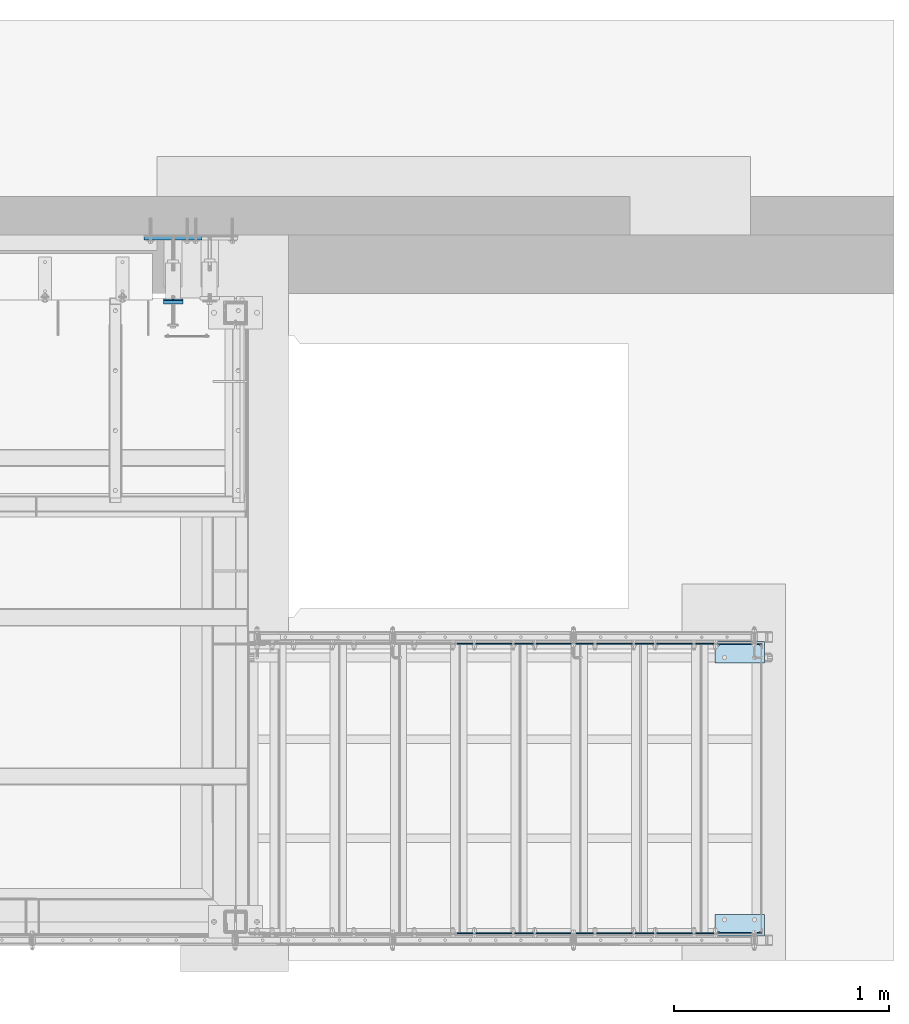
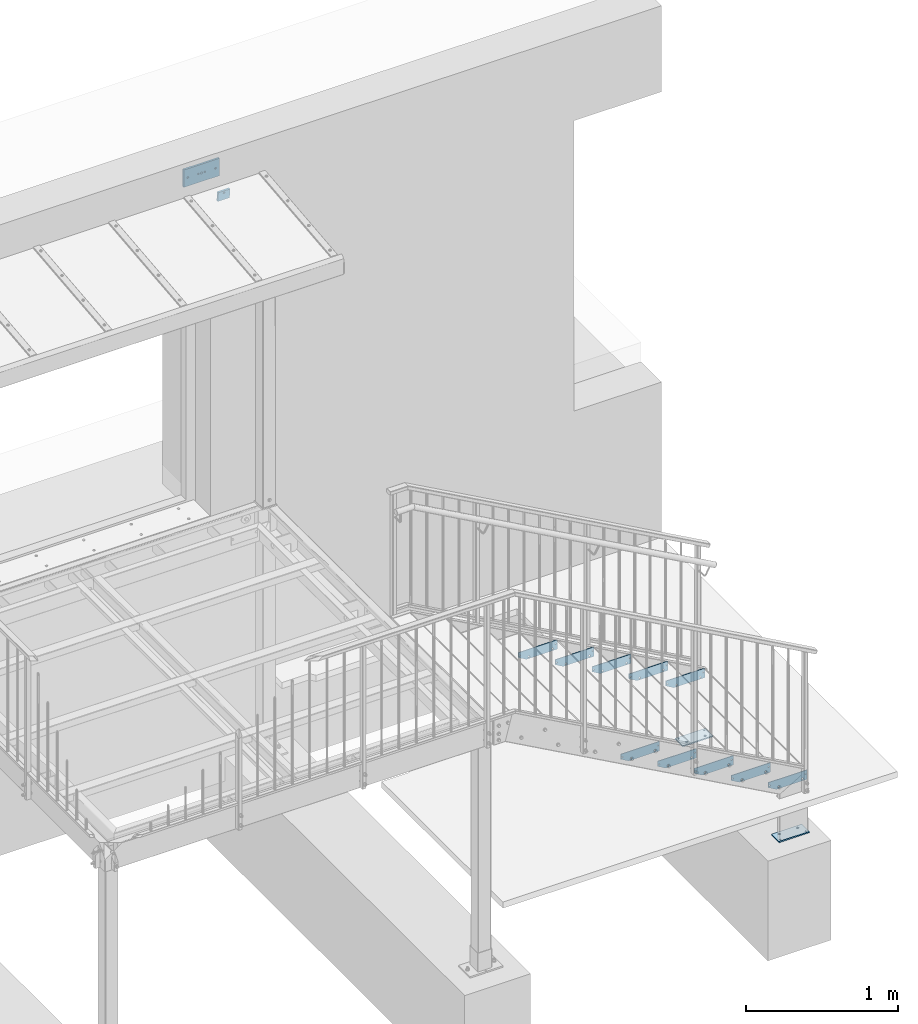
# One storey, part 25 of 116: 14 plates, 64 openings.
"""IFC2X3 building model written with IfcOpenShell, lengths in millimetres."""

from ifc_helpers import new_model, entity, si_unit, converted_unit, frame, frame_2d, origin, origin_with_axes, origin_2d_with_axis, place, context, project, spatial, polyline, circle, outline, extrude, material, layer, layer_set, element, save


model = new_model("IFC2X3")

# Units and contexts
model_context = context("Model", 3, precision=1e-09, world=origin_with_axes())
ifc_project = project(units=[si_unit("LENGTHUNIT", "METRE", prefix="MILLI"), si_unit("AREAUNIT", "SQUARE_METRE"), si_unit("VOLUMEUNIT", "CUBIC_METRE"), converted_unit("PLANEANGLEUNIT", "DEGREE", entity("IfcPlaneAngleMeasure", 0.01745329), si_unit("PLANEANGLEUNIT", "RADIAN"), dimensions=[0, 0, 0, 0, 0, 0, 0])], contexts=[model_context])

# Site, building, storey
site_placement = place(None, origin_with_axes())
site = spatial("IfcSite", under=ifc_project, at=site_placement, Name="Site", CompositionType="ELEMENT")
building_placement = place(site_placement, origin_with_axes())
building = spatial("IfcBuilding", under=site, at=building_placement, Name="Struktur 1", CompositionType="ELEMENT")
storey_placement = place(building_placement, origin_with_axes())
storey = spatial("IfcBuildingStorey", under=building, at=storey_placement, Name="Default Storey", CompositionType="ELEMENT", Elevation=0.0)

# Plate, openings
ifc_material_1 = material(Name="S235JR")
ifc_layer_1 = layer(ifc_material_1, 5.0)
ifc_layer_set_1 = layer_set([ifc_layer_1], Name="S235JR")
plate_1_placement = place(None, frame((60032.049134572, 10421.358883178, -1093.0), z_axis=(0.0, 1.0, 0.0), x_axis=(1.0, 0.0, 0.0)))
plate_1 = element("IfcPlate", 1, at=plate_1_placement, inside=storey, material=ifc_layer_set_1, Name="-", ObjectType="-", context=model_context, shape_type="SweptSolid", body=[
    extrude(outline(polyline([(5.0, 0.0), (300.0, 0.0), (300.0, 75.0), (5.0, 75.0), (5.0, 0.0)])), origin_with_axes(), (0.0, 0.0, 1.0), 5.0),
])
opening_1_placement = place(plate_1_placement, frame((0.0, 0.0, -0.01), z_axis=(0.0, 0.0, 1.0), x_axis=(1.0, 0.0, 0.0)))
element("IfcOpeningElement", 2, at=opening_1_placement, cuts=plate_1, ObjectType="Opening", context=model_context, shape_type="SweptSolid", body=[
    extrude(outline(polyline([(5.0, 75.0), (5.0, 40.0), (65.0, 75.0), (5.0, 75.0)])), origin(), (0.0, 0.0, 1.0), 5.02),
])
opening_2_placement = place(plate_1_placement, frame((11.0, 29.0, 5.5), z_axis=(0.0, 0.0, -1.0), x_axis=(0.0, 1.0, 0.0)))
element("IfcOpeningElement", 3, at=opening_2_placement, cuts=plate_1, ObjectType="Opening", context=model_context, shape_type="SweptSolid", body=[
    extrude(circle(Radius=5.001, at=frame_2d((-1.0, 6.0), x_axis=(1.0, 0.0))), origin(), (0.0, 0.0, 1.0), 6.0),
])
opening_3_placement = place(plate_1_placement, frame((299.0, 29.0, 5.5), z_axis=(0.0, 0.0, -1.0), x_axis=(0.0, -1.0, 0.0)))
element("IfcOpeningElement", 4, at=opening_3_placement, cuts=plate_1, ObjectType="Opening", context=model_context, shape_type="SweptSolid", body=[
    extrude(circle(Radius=5.001, at=frame_2d((1.0, 12.0), x_axis=(1.0, 0.0))), origin(), (0.0, 0.0, 1.0), 6.0),
])
opening_4_placement = place(plate_1_placement, frame((77.999, 60.0, -0.5), z_axis=(0.0, 0.0, -1.0), x_axis=(-1.0, 0.0, 0.0)))
element("IfcOpeningElement", 5, at=opening_4_placement, cuts=plate_1, ObjectType="Opening", context=model_context, shape_type="SweptSolid", body=[
    extrude(circle(Radius=7.001, at=frame_2d((-7.001, 0.0), x_axis=(1.0, 0.0))), origin(), (0.0, 0.0, -1.0), 6.0),
])
opening_5_placement = place(plate_1_placement, frame((257.999, 60.0, -0.5), z_axis=(0.0, 0.0, -1.0), x_axis=(-1.0, 0.0, 0.0)))
element("IfcOpeningElement", 6, at=opening_5_placement, cuts=plate_1, ObjectType="Opening", context=model_context, shape_type="SweptSolid", body=[
    extrude(circle(Radius=7.001, at=frame_2d((-7.001, 0.0), x_axis=(1.0, 0.0))), origin(), (0.0, 0.0, -1.0), 6.0),
])

# Plate, opening
ifc_material_2 = material(Name="S355JR")
ifc_layer_2 = layer(ifc_material_2, 15.0)
ifc_layer_set_2 = layer_set([ifc_layer_2], Name="S355JR")
plate_2_placement = place(None, frame((57877.049134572, 12022.096531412, 2545.0), z_axis=(0.0, -0.994521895, -0.104528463), x_axis=(1.0, 0.0, 0.0)))
plate_2 = element("IfcPlate", 7, at=plate_2_placement, inside=storey, material=ifc_layer_set_2, Name="-", ObjectType="-", context=model_context, shape_type="SweptSolid", body=[
    extrude(outline(polyline([(-45.0, -38.0), (45.0, -38.0), (45.0, 38.0), (-45.0, 38.0), (-45.0, -38.0)])), origin_with_axes(), (0.0, 0.0, 1.0), 15.0),
])
opening_6_placement = place(plate_2_placement, frame((0.0, -45.0, -0.5), z_axis=(0.0, 0.0, 1.0), x_axis=(1.0, 0.0, 0.0)))
element("IfcOpeningElement", 8, at=opening_6_placement, cuts=plate_2, ObjectType="Opening", context=model_context, shape_type="SweptSolid", body=[
    extrude(circle(Radius=7.001, at=frame_2d((0.0, 67.0), x_axis=(1.0, 0.0))), origin(), (0.0, 0.0, 1.0), 16.0),
])

# Plate, openings
plate_3_placement = place(None, frame((57877.049134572, 12301.357883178, 2545.0), z_axis=(0.0, -1.0, 0.0), x_axis=(1.0, 0.0, 0.0)))
plate_3 = element("IfcPlate", 9, at=plate_3_placement, inside=storey, material=ifc_layer_set_2, Name="-", ObjectType="-", context=model_context, shape_type="SweptSolid", body=[
    extrude(outline(polyline([(-135.0, -70.0), (135.0, -70.0), (135.0, 70.0), (-135.0, 70.0), (-135.0, -70.0)])), origin_with_axes(), (0.0, 0.0, -1.0), 15.0),
])
opening_7_placement = place(plate_3_placement, frame((18.999, 0.0, 0.5), z_axis=(0.0, 0.0, 1.0), x_axis=(1.0, 0.0, 0.0)))
element("IfcOpeningElement", 10, at=opening_7_placement, cuts=plate_3, ObjectType="Opening", context=model_context, shape_type="SweptSolid", body=[
    extrude(circle(Radius=6.001, at=frame_2d((6.001, 0.0), x_axis=(1.0, 0.0))), origin(), (0.0, 0.0, -1.0), 16.0),
])
opening_8_placement = place(plate_3_placement, frame((-31.001, 0.0, 0.5), z_axis=(0.0, 0.0, 1.0), x_axis=(1.0, 0.0, 0.0)))
element("IfcOpeningElement", 11, at=opening_8_placement, cuts=plate_3, ObjectType="Opening", context=model_context, shape_type="SweptSolid", body=[
    extrude(circle(Radius=6.001, at=frame_2d((6.001, 0.0), x_axis=(1.0, 0.0))), origin(), (0.0, 0.0, -1.0), 16.0),
])
opening_9_placement = place(plate_3_placement, frame((-8.501, 0.0, 0.5), z_axis=(0.0, 0.0, 1.0), x_axis=(1.0, 0.0, 0.0)))
element("IfcOpeningElement", 12, at=opening_9_placement, cuts=plate_3, ObjectType="Opening", context=model_context, shape_type="SweptSolid", body=[
    extrude(circle(Radius=8.501, at=frame_2d((8.501, 0.0), x_axis=(1.0, 0.0))), origin(), (0.0, 0.0, -1.0), 16.0),
])
opening_10_placement = place(plate_3_placement, frame((0.0, 0.0, -15.5), z_axis=(0.0, 0.0, 1.0), x_axis=(1.0, 0.0, 0.0)))
element("IfcOpeningElement", 13, at=opening_10_placement, cuts=plate_3, ObjectType="Opening", context=model_context, shape_type="SweptSolid", body=[
    extrude(circle(Radius=7.501, at=frame_2d((105.0, 0.0), x_axis=(1.0, 0.0))), origin(), (0.0, 0.0, 1.0), 16.0),
])
opening_11_placement = place(plate_3_placement, frame((0.0, 0.0, -15.5), z_axis=(0.0, 0.0, 1.0), x_axis=(1.0, 0.0, 0.0)))
element("IfcOpeningElement", 14, at=opening_11_placement, cuts=plate_3, ObjectType="Opening", context=model_context, shape_type="SweptSolid", body=[
    extrude(circle(Radius=7.501, at=frame_2d((-105.0, 0.0), x_axis=(1.0, 0.0))), origin(), (0.0, 0.0, 1.0), 16.0),
])

plate_4_placement = place(None, frame((60032.049134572, 9081.358883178, -1093.0), z_axis=(0.0, 1.0, 0.0), x_axis=(1.0, 0.0, 0.0)))
plate_4 = element("IfcPlate", 15, at=plate_4_placement, inside=storey, material=ifc_layer_set_1, Name="-", ObjectType="-", context=model_context, shape_type="SweptSolid", body=[
    extrude(outline(polyline([(5.0, 0.0), (300.0, 0.0), (300.0, 75.0), (5.0, 75.0), (5.0, 0.0)])), origin_with_axes(), (0.0, 0.0, -1.0), 5.0),
])
opening_12_placement = place(plate_4_placement, frame((5.0, 75.0, 0.01), z_axis=(0.0, 0.0, 1.0), x_axis=(0.0, -1.0, 0.0)))
element("IfcOpeningElement", 16, at=opening_12_placement, cuts=plate_4, ObjectType="Opening", context=model_context, shape_type="SweptSolid", body=[
    extrude(outline(polyline([(0.0, 0.0), (35.0, 0.0), (0.0, 60.0), (0.0, 0.0)])), origin(), (0.0, 0.0, -1.0), 5.02),
])
opening_13_placement = place(plate_4_placement, frame((17.0, 22.999, -5.5), z_axis=(0.0, 0.0, -1.0), x_axis=(-1.0, 0.0, 0.0)))
element("IfcOpeningElement", 17, at=opening_13_placement, cuts=plate_4, ObjectType="Opening", context=model_context, shape_type="SweptSolid", body=[
    extrude(circle(Radius=5.001, at=frame_2d((0.0, 5.001), x_axis=(1.0, 0.0))), origin(), (0.0, 0.0, -1.0), 6.0),
])
opening_14_placement = place(plate_4_placement, frame((287.0, 33.001, -5.5), z_axis=(0.0, 0.0, -1.0), x_axis=(-1.0, 0.0, 0.0)))
element("IfcOpeningElement", 18, at=opening_14_placement, cuts=plate_4, ObjectType="Opening", context=model_context, shape_type="SweptSolid", body=[
    extrude(circle(Radius=5.001, at=frame_2d((0.0, -5.001), x_axis=(1.0, 0.0))), origin(), (0.0, 0.0, -1.0), 6.0),
])
opening_15_placement = place(plate_4_placement, frame((85.0, 60.0, 0.5), z_axis=(0.0, 0.0, -1.0), x_axis=(1.0, 0.0, 0.0)))
element("IfcOpeningElement", 19, at=opening_15_placement, cuts=plate_4, ObjectType="Opening", context=model_context, shape_type="SweptSolid", body=[
    extrude(circle(Radius=7.001, at=origin_2d_with_axis()), origin(), (0.0, 0.0, 1.0), 6.0),
])
opening_16_placement = place(plate_4_placement, frame((265.0, 60.0, 0.5), z_axis=(0.0, 0.0, -1.0), x_axis=(1.0, 0.0, 0.0)))
element("IfcOpeningElement", 20, at=opening_16_placement, cuts=plate_4, ObjectType="Opening", context=model_context, shape_type="SweptSolid", body=[
    extrude(circle(Radius=7.001, at=origin_2d_with_axis()), origin(), (0.0, 0.0, 1.0), 6.0),
])

ifc_layer_3 = layer(ifc_material_1, 10.0)
ifc_layer_set_3 = layer_set([ifc_layer_3], Name="S235JR")
plate_5_placement = place(None, frame((60508.549134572, 9117.358883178, -1752.0), z_axis=(0.0, 0.0, 1.0), x_axis=(1.0, 0.0, 0.0)))
plate_5 = element("IfcPlate", 21, at=plate_5_placement, inside=storey, material=ifc_layer_set_3, Name="-", ObjectType="-", context=model_context, shape_type="SweptSolid", body=[
    extrude(outline(polyline([(-115.0, -50.0), (115.0, -50.0), (115.0, 50.0), (-115.0, 50.0), (-115.0, -50.0)])), origin_with_axes(), (0.0, 0.0, 1.0), 10.0),
])
opening_17_placement = place(plate_5_placement, frame((104.5, -36.0, -0.5), z_axis=(0.0, 0.0, 1.0), x_axis=(1.0, 0.0, 0.0)))
element("IfcOpeningElement", 22, at=opening_17_placement, cuts=plate_5, ObjectType="Opening", context=model_context, shape_type="SweptSolid", body=[
    extrude(circle(Radius=5.001, at=frame_2d((-7.0, 2.0), x_axis=(1.0, 0.0))), origin(), (0.0, 0.0, 1.0), 11.0),
])
opening_18_placement = place(plate_5_placement, frame((-104.5, -36.0, -0.5), z_axis=(0.0, 0.0, 1.0), x_axis=(1.0, 0.0, 0.0)))
element("IfcOpeningElement", 23, at=opening_18_placement, cuts=plate_5, ObjectType="Opening", context=model_context, shape_type="SweptSolid", body=[
    extrude(circle(Radius=5.001, at=frame_2d((7.0, 2.0), x_axis=(1.0, 0.0))), origin(), (0.0, 0.0, 1.0), 11.0),
])
opening_19_placement = place(plate_5_placement, frame((0.0, 25.0, -0.5), z_axis=(0.0, 0.0, 1.0), x_axis=(1.0, 0.0, 0.0)))
element("IfcOpeningElement", 24, at=opening_19_placement, cuts=plate_5, ObjectType="Opening", context=model_context, shape_type="SweptSolid", body=[
    extrude(circle(Radius=8.001, at=frame_2d((70.0, 0.0), x_axis=(1.0, 0.0))), origin(), (0.0, 0.0, 1.0), 11.0),
])
opening_20_placement = place(plate_5_placement, frame((0.0, 25.0, -0.5), z_axis=(0.0, 0.0, 1.0), x_axis=(1.0, 0.0, 0.0)))
element("IfcOpeningElement", 25, at=opening_20_placement, cuts=plate_5, ObjectType="Opening", context=model_context, shape_type="SweptSolid", body=[
    extrude(circle(Radius=8.001, at=frame_2d((-70.0, 0.0), x_axis=(1.0, 0.0))), origin(), (0.0, 0.0, 1.0), 11.0),
])

plate_6_placement = place(None, frame((60508.549134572, 10385.358883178, -1752.0), z_axis=(0.0, 0.0, -1.0), x_axis=(1.0, 0.0, 0.0)))
plate_6 = element("IfcPlate", 26, at=plate_6_placement, inside=storey, material=ifc_layer_set_3, Name="-", ObjectType="-", context=model_context, shape_type="SweptSolid", body=[
    extrude(outline(polyline([(-115.0, -50.0), (115.0, -50.0), (115.0, 50.0), (-115.0, 50.0), (-115.0, -50.0)])), origin_with_axes(), (0.0, 0.0, -1.0), 10.0),
])
opening_21_placement = place(plate_6_placement, frame((92.499, -34.0, 0.5), z_axis=(0.0, 0.0, 1.0), x_axis=(1.0, 0.0, 0.0)))
element("IfcOpeningElement", 27, at=opening_21_placement, cuts=plate_6, ObjectType="Opening", context=model_context, shape_type="SweptSolid", body=[
    extrude(circle(Radius=5.001, at=frame_2d((5.001, 0.0), x_axis=(1.0, 0.0))), origin(), (0.0, 0.0, -1.0), 11.0),
])
opening_22_placement = place(plate_6_placement, frame((-102.501, -34.0, 0.5), z_axis=(0.0, 0.0, 1.0), x_axis=(1.0, 0.0, 0.0)))
element("IfcOpeningElement", 28, at=opening_22_placement, cuts=plate_6, ObjectType="Opening", context=model_context, shape_type="SweptSolid", body=[
    extrude(circle(Radius=5.001, at=frame_2d((5.001, 0.0), x_axis=(1.0, 0.0))), origin(), (0.0, 0.0, -1.0), 11.0),
])
opening_23_placement = place(plate_6_placement, frame((61.999, 25.0, 0.5), z_axis=(0.0, 0.0, 1.0), x_axis=(1.0, 0.0, 0.0)))
element("IfcOpeningElement", 29, at=opening_23_placement, cuts=plate_6, ObjectType="Opening", context=model_context, shape_type="SweptSolid", body=[
    extrude(circle(Radius=8.001, at=frame_2d((8.001, 0.0), x_axis=(1.0, 0.0))), origin(), (0.0, 0.0, -1.0), 11.0),
])
opening_24_placement = place(plate_6_placement, frame((-78.001, 25.0, 0.5), z_axis=(0.0, 0.0, 1.0), x_axis=(1.0, 0.0, 0.0)))
element("IfcOpeningElement", 30, at=opening_24_placement, cuts=plate_6, ObjectType="Opening", context=model_context, shape_type="SweptSolid", body=[
    extrude(circle(Radius=8.001, at=frame_2d((8.001, 0.0), x_axis=(1.0, 0.0))), origin(), (0.0, 0.0, -1.0), 11.0),
])

plate_7_placement = place(None, frame((60312.049134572, 10421.358883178, -1248.0), z_axis=(0.0, 1.0, 0.0), x_axis=(1.0, 0.0, 0.0)))
plate_7 = element("IfcPlate", 31, at=plate_7_placement, inside=storey, material=ifc_layer_set_1, Name="-", ObjectType="-", context=model_context, shape_type="SweptSolid", body=[
    extrude(outline(polyline([(5.0, 0.0), (300.0, 0.0), (300.0, 75.0), (5.0, 75.0), (5.0, 0.0)])), origin_with_axes(), (0.0, 0.0, 1.0), 5.0),
])
opening_25_placement = place(plate_7_placement, frame((0.0, 0.0, -0.01), z_axis=(0.0, 0.0, 1.0), x_axis=(1.0, 0.0, 0.0)))
element("IfcOpeningElement", 32, at=opening_25_placement, cuts=plate_7, ObjectType="Opening", context=model_context, shape_type="SweptSolid", body=[
    extrude(outline(polyline([(5.0, 75.0), (5.0, 40.0), (65.0, 75.0), (5.0, 75.0)])), origin(), (0.0, 0.0, 1.0), 5.02),
])
opening_26_placement = place(plate_7_placement, frame((11.0, 29.0, 5.5), z_axis=(0.0, 0.0, -1.0), x_axis=(0.0, 1.0, 0.0)))
element("IfcOpeningElement", 33, at=opening_26_placement, cuts=plate_7, ObjectType="Opening", context=model_context, shape_type="SweptSolid", body=[
    extrude(circle(Radius=5.001, at=frame_2d((-1.0, 6.0), x_axis=(1.0, 0.0))), origin(), (0.0, 0.0, 1.0), 6.0),
])
opening_27_placement = place(plate_7_placement, frame((299.0, 29.0, 5.5), z_axis=(0.0, 0.0, -1.0), x_axis=(0.0, -1.0, 0.0)))
element("IfcOpeningElement", 34, at=opening_27_placement, cuts=plate_7, ObjectType="Opening", context=model_context, shape_type="SweptSolid", body=[
    extrude(circle(Radius=5.001, at=frame_2d((1.0, 12.0), x_axis=(1.0, 0.0))), origin(), (0.0, 0.0, 1.0), 6.0),
])
opening_28_placement = place(plate_7_placement, frame((77.999, 60.0, -0.5), z_axis=(0.0, 0.0, -1.0), x_axis=(-1.0, 0.0, 0.0)))
element("IfcOpeningElement", 35, at=opening_28_placement, cuts=plate_7, ObjectType="Opening", context=model_context, shape_type="SweptSolid", body=[
    extrude(circle(Radius=7.001, at=frame_2d((-7.001, 0.0), x_axis=(1.0, 0.0))), origin(), (0.0, 0.0, -1.0), 6.0),
])
opening_29_placement = place(plate_7_placement, frame((265.0, 60.0, 5.5), z_axis=(0.0, 0.0, -1.0), x_axis=(1.0, 0.0, 0.0)))
element("IfcOpeningElement", 36, at=opening_29_placement, cuts=plate_7, ObjectType="Opening", context=model_context, shape_type="SweptSolid", body=[
    extrude(circle(Radius=7.001, at=origin_2d_with_axis()), origin(), (0.0, 0.0, 1.0), 6.0),
])

plate_8_placement = place(None, frame((60312.049134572, 9081.358883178, -1248.0), z_axis=(0.0, 1.0, 0.0), x_axis=(1.0, 0.0, 0.0)))
plate_8 = element("IfcPlate", 37, at=plate_8_placement, inside=storey, material=ifc_layer_set_1, Name="-", ObjectType="-", context=model_context, shape_type="SweptSolid", body=[
    extrude(outline(polyline([(5.0, 0.0), (300.0, 0.0), (300.0, 75.0), (5.0, 75.0), (5.0, 0.0)])), origin_with_axes(), (0.0, 0.0, -1.0), 5.0),
])
opening_30_placement = place(plate_8_placement, frame((5.0, 75.0, 0.01), z_axis=(0.0, 0.0, 1.0), x_axis=(0.0, -1.0, 0.0)))
element("IfcOpeningElement", 38, at=opening_30_placement, cuts=plate_8, ObjectType="Opening", context=model_context, shape_type="SweptSolid", body=[
    extrude(outline(polyline([(0.0, 0.0), (35.0, 0.0), (0.0, 60.0), (0.0, 0.0)])), origin(), (0.0, 0.0, -1.0), 5.02),
])
opening_31_placement = place(plate_8_placement, frame((17.0, 22.999, -5.5), z_axis=(0.0, 0.0, -1.0), x_axis=(-1.0, 0.0, 0.0)))
element("IfcOpeningElement", 39, at=opening_31_placement, cuts=plate_8, ObjectType="Opening", context=model_context, shape_type="SweptSolid", body=[
    extrude(circle(Radius=5.001, at=frame_2d((0.0, 5.001), x_axis=(1.0, 0.0))), origin(), (0.0, 0.0, -1.0), 6.0),
])
opening_32_placement = place(plate_8_placement, frame((287.0, 33.001, -5.5), z_axis=(0.0, 0.0, -1.0), x_axis=(-1.0, 0.0, 0.0)))
element("IfcOpeningElement", 40, at=opening_32_placement, cuts=plate_8, ObjectType="Opening", context=model_context, shape_type="SweptSolid", body=[
    extrude(circle(Radius=5.001, at=frame_2d((0.0, -5.001), x_axis=(1.0, 0.0))), origin(), (0.0, 0.0, -1.0), 6.0),
])
opening_33_placement = place(plate_8_placement, frame((85.0, 60.0, 0.5), z_axis=(0.0, 0.0, -1.0), x_axis=(1.0, 0.0, 0.0)))
element("IfcOpeningElement", 41, at=opening_33_placement, cuts=plate_8, ObjectType="Opening", context=model_context, shape_type="SweptSolid", body=[
    extrude(circle(Radius=7.001, at=origin_2d_with_axis()), origin(), (0.0, 0.0, 1.0), 6.0),
])
opening_34_placement = place(plate_8_placement, frame((257.999, 60.0, -5.5), z_axis=(0.0, 0.0, -1.0), x_axis=(-1.0, 0.0, 0.0)))
element("IfcOpeningElement", 42, at=opening_34_placement, cuts=plate_8, ObjectType="Opening", context=model_context, shape_type="SweptSolid", body=[
    extrude(circle(Radius=7.001, at=frame_2d((-7.001, 0.0), x_axis=(1.0, 0.0))), origin(), (0.0, 0.0, -1.0), 6.0),
])

plate_9_placement = place(None, frame((59752.049134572, 10421.358883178, -938.0), z_axis=(0.0, 1.0, 0.0), x_axis=(1.0, 0.0, 0.0)))
plate_9 = element("IfcPlate", 43, at=plate_9_placement, inside=storey, material=ifc_layer_set_1, Name="-", ObjectType="-", context=model_context, shape_type="SweptSolid", body=[
    extrude(outline(polyline([(5.0, 0.0), (300.0, 0.0), (300.0, 75.0), (5.0, 75.0), (5.0, 0.0)])), origin_with_axes(), (0.0, 0.0, 1.0), 5.0),
])
opening_35_placement = place(plate_9_placement, frame((0.0, 0.0, -0.01), z_axis=(0.0, 0.0, 1.0), x_axis=(1.0, 0.0, 0.0)))
element("IfcOpeningElement", 44, at=opening_35_placement, cuts=plate_9, ObjectType="Opening", context=model_context, shape_type="SweptSolid", body=[
    extrude(outline(polyline([(5.0, 75.0), (5.0, 40.0), (65.0, 75.0), (5.0, 75.0)])), origin(), (0.0, 0.0, 1.0), 5.02),
])
opening_36_placement = place(plate_9_placement, frame((11.0, 29.0, 5.5), z_axis=(0.0, 0.0, -1.0), x_axis=(0.0, 1.0, 0.0)))
element("IfcOpeningElement", 45, at=opening_36_placement, cuts=plate_9, ObjectType="Opening", context=model_context, shape_type="SweptSolid", body=[
    extrude(circle(Radius=5.001, at=frame_2d((-1.0, 6.0), x_axis=(1.0, 0.0))), origin(), (0.0, 0.0, 1.0), 6.0),
])
opening_37_placement = place(plate_9_placement, frame((299.0, 29.0, 5.5), z_axis=(0.0, 0.0, -1.0), x_axis=(0.0, -1.0, 0.0)))
element("IfcOpeningElement", 46, at=opening_37_placement, cuts=plate_9, ObjectType="Opening", context=model_context, shape_type="SweptSolid", body=[
    extrude(circle(Radius=5.001, at=frame_2d((1.0, 12.0), x_axis=(1.0, 0.0))), origin(), (0.0, 0.0, 1.0), 6.0),
])
opening_38_placement = place(plate_9_placement, frame((77.999, 60.0, -0.5), z_axis=(0.0, 0.0, -1.0), x_axis=(-1.0, 0.0, 0.0)))
element("IfcOpeningElement", 47, at=opening_38_placement, cuts=plate_9, ObjectType="Opening", context=model_context, shape_type="SweptSolid", body=[
    extrude(circle(Radius=7.001, at=frame_2d((-7.001, 0.0), x_axis=(1.0, 0.0))), origin(), (0.0, 0.0, -1.0), 6.0),
])
opening_39_placement = place(plate_9_placement, frame((257.999, 60.0, -0.5), z_axis=(0.0, 0.0, -1.0), x_axis=(-1.0, 0.0, 0.0)))
element("IfcOpeningElement", 48, at=opening_39_placement, cuts=plate_9, ObjectType="Opening", context=model_context, shape_type="SweptSolid", body=[
    extrude(circle(Radius=7.001, at=frame_2d((-7.001, 0.0), x_axis=(1.0, 0.0))), origin(), (0.0, 0.0, -1.0), 6.0),
])

plate_10_placement = place(None, frame((59752.049134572, 9081.358883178, -938.0), z_axis=(0.0, 1.0, 0.0), x_axis=(1.0, 0.0, 0.0)))
plate_10 = element("IfcPlate", 49, at=plate_10_placement, inside=storey, material=ifc_layer_set_1, Name="-", ObjectType="-", context=model_context, shape_type="SweptSolid", body=[
    extrude(outline(polyline([(5.0, 0.0), (300.0, 0.0), (300.0, 75.0), (5.0, 75.0), (5.0, 0.0)])), origin_with_axes(), (0.0, 0.0, -1.0), 5.0),
])
opening_40_placement = place(plate_10_placement, frame((5.0, 75.0, 0.01), z_axis=(0.0, 0.0, 1.0), x_axis=(0.0, -1.0, 0.0)))
element("IfcOpeningElement", 50, at=opening_40_placement, cuts=plate_10, ObjectType="Opening", context=model_context, shape_type="SweptSolid", body=[
    extrude(outline(polyline([(0.0, 0.0), (35.0, 0.0), (0.0, 60.0), (0.0, 0.0)])), origin(), (0.0, 0.0, -1.0), 5.02),
])
opening_41_placement = place(plate_10_placement, frame((17.0, 22.999, -5.5), z_axis=(0.0, 0.0, -1.0), x_axis=(-1.0, 0.0, 0.0)))
element("IfcOpeningElement", 51, at=opening_41_placement, cuts=plate_10, ObjectType="Opening", context=model_context, shape_type="SweptSolid", body=[
    extrude(circle(Radius=5.001, at=frame_2d((0.0, 5.001), x_axis=(1.0, 0.0))), origin(), (0.0, 0.0, -1.0), 6.0),
])
opening_42_placement = place(plate_10_placement, frame((287.0, 33.001, -5.5), z_axis=(0.0, 0.0, -1.0), x_axis=(-1.0, 0.0, 0.0)))
element("IfcOpeningElement", 52, at=opening_42_placement, cuts=plate_10, ObjectType="Opening", context=model_context, shape_type="SweptSolid", body=[
    extrude(circle(Radius=5.001, at=frame_2d((0.0, -5.001), x_axis=(1.0, 0.0))), origin(), (0.0, 0.0, -1.0), 6.0),
])
opening_43_placement = place(plate_10_placement, frame((265.0, 60.0, 0.5), z_axis=(0.0, 0.0, -1.0), x_axis=(1.0, 0.0, 0.0)))
element("IfcOpeningElement", 53, at=opening_43_placement, cuts=plate_10, ObjectType="Opening", context=model_context, shape_type="SweptSolid", body=[
    extrude(circle(Radius=7.001, at=origin_2d_with_axis()), origin(), (0.0, 0.0, 1.0), 6.0),
])
opening_44_placement = place(plate_10_placement, frame((85.0, 60.0, 0.5), z_axis=(0.0, 0.0, -1.0), x_axis=(1.0, 0.0, 0.0)))
element("IfcOpeningElement", 54, at=opening_44_placement, cuts=plate_10, ObjectType="Opening", context=model_context, shape_type="SweptSolid", body=[
    extrude(circle(Radius=7.001, at=origin_2d_with_axis()), origin(), (0.0, 0.0, 1.0), 6.0),
])

plate_11_placement = place(None, frame((59472.049134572, 10421.358883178, -783.0), z_axis=(0.0, 1.0, 0.0), x_axis=(1.0, 0.0, 0.0)))
plate_11 = element("IfcPlate", 55, at=plate_11_placement, inside=storey, material=ifc_layer_set_1, Name="-", ObjectType="-", context=model_context, shape_type="SweptSolid", body=[
    extrude(outline(polyline([(5.0, 0.0), (300.0, 0.0), (300.0, 75.0), (5.0, 75.0), (5.0, 0.0)])), origin_with_axes(), (0.0, 0.0, 1.0), 5.0),
])
opening_45_placement = place(plate_11_placement, frame((0.0, 0.0, -0.01), z_axis=(0.0, 0.0, 1.0), x_axis=(1.0, 0.0, 0.0)))
element("IfcOpeningElement", 56, at=opening_45_placement, cuts=plate_11, ObjectType="Opening", context=model_context, shape_type="SweptSolid", body=[
    extrude(outline(polyline([(5.0, 75.0), (5.0, 40.0), (65.0, 75.0), (5.0, 75.0)])), origin(), (0.0, 0.0, 1.0), 5.02),
])
opening_46_placement = place(plate_11_placement, frame((11.0, 29.0, 5.5), z_axis=(0.0, 0.0, -1.0), x_axis=(0.0, 1.0, 0.0)))
element("IfcOpeningElement", 57, at=opening_46_placement, cuts=plate_11, ObjectType="Opening", context=model_context, shape_type="SweptSolid", body=[
    extrude(circle(Radius=5.001, at=frame_2d((-1.0, 6.0), x_axis=(1.0, 0.0))), origin(), (0.0, 0.0, 1.0), 6.0),
])
opening_47_placement = place(plate_11_placement, frame((299.0, 29.0, 5.5), z_axis=(0.0, 0.0, -1.0), x_axis=(0.0, -1.0, 0.0)))
element("IfcOpeningElement", 58, at=opening_47_placement, cuts=plate_11, ObjectType="Opening", context=model_context, shape_type="SweptSolid", body=[
    extrude(circle(Radius=5.001, at=frame_2d((1.0, 12.0), x_axis=(1.0, 0.0))), origin(), (0.0, 0.0, 1.0), 6.0),
])
opening_48_placement = place(plate_11_placement, frame((77.999, 60.0, -0.5), z_axis=(0.0, 0.0, -1.0), x_axis=(-1.0, 0.0, 0.0)))
element("IfcOpeningElement", 59, at=opening_48_placement, cuts=plate_11, ObjectType="Opening", context=model_context, shape_type="SweptSolid", body=[
    extrude(circle(Radius=7.001, at=frame_2d((-7.001, 0.0), x_axis=(1.0, 0.0))), origin(), (0.0, 0.0, -1.0), 6.0),
])
opening_49_placement = place(plate_11_placement, frame((265.0, 60.0, 5.5), z_axis=(0.0, 0.0, -1.0), x_axis=(1.0, 0.0, 0.0)))
element("IfcOpeningElement", 60, at=opening_49_placement, cuts=plate_11, ObjectType="Opening", context=model_context, shape_type="SweptSolid", body=[
    extrude(circle(Radius=7.001, at=origin_2d_with_axis()), origin(), (0.0, 0.0, 1.0), 6.0),
])

plate_12_placement = place(None, frame((59472.049134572, 9081.358883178, -783.0), z_axis=(0.0, 1.0, 0.0), x_axis=(1.0, 0.0, 0.0)))
plate_12 = element("IfcPlate", 61, at=plate_12_placement, inside=storey, material=ifc_layer_set_1, Name="-", ObjectType="-", context=model_context, shape_type="SweptSolid", body=[
    extrude(outline(polyline([(5.0, 0.0), (300.0, 0.0), (300.0, 75.0), (5.0, 75.0), (5.0, 0.0)])), origin_with_axes(), (0.0, 0.0, -1.0), 5.0),
])
opening_50_placement = place(plate_12_placement, frame((5.0, 75.0, 0.01), z_axis=(0.0, 0.0, 1.0), x_axis=(0.0, -1.0, 0.0)))
element("IfcOpeningElement", 62, at=opening_50_placement, cuts=plate_12, ObjectType="Opening", context=model_context, shape_type="SweptSolid", body=[
    extrude(outline(polyline([(0.0, 0.0), (35.0, 0.0), (0.0, 60.0), (0.0, 0.0)])), origin(), (0.0, 0.0, -1.0), 5.02),
])
opening_51_placement = place(plate_12_placement, frame((17.0, 22.999, -5.5), z_axis=(0.0, 0.0, -1.0), x_axis=(-1.0, 0.0, 0.0)))
element("IfcOpeningElement", 63, at=opening_51_placement, cuts=plate_12, ObjectType="Opening", context=model_context, shape_type="SweptSolid", body=[
    extrude(circle(Radius=5.001, at=frame_2d((0.0, 5.001), x_axis=(1.0, 0.0))), origin(), (0.0, 0.0, -1.0), 6.0),
])
opening_52_placement = place(plate_12_placement, frame((287.0, 33.001, -5.5), z_axis=(0.0, 0.0, -1.0), x_axis=(-1.0, 0.0, 0.0)))
element("IfcOpeningElement", 64, at=opening_52_placement, cuts=plate_12, ObjectType="Opening", context=model_context, shape_type="SweptSolid", body=[
    extrude(circle(Radius=5.001, at=frame_2d((0.0, -5.001), x_axis=(1.0, 0.0))), origin(), (0.0, 0.0, -1.0), 6.0),
])
opening_53_placement = place(plate_12_placement, frame((85.0, 60.0, 0.5), z_axis=(0.0, 0.0, -1.0), x_axis=(1.0, 0.0, 0.0)))
element("IfcOpeningElement", 65, at=opening_53_placement, cuts=plate_12, ObjectType="Opening", context=model_context, shape_type="SweptSolid", body=[
    extrude(circle(Radius=7.001, at=origin_2d_with_axis()), origin(), (0.0, 0.0, 1.0), 6.0),
])
opening_54_placement = place(plate_12_placement, frame((257.999, 60.0, -5.5), z_axis=(0.0, 0.0, -1.0), x_axis=(-1.0, 0.0, 0.0)))
element("IfcOpeningElement", 66, at=opening_54_placement, cuts=plate_12, ObjectType="Opening", context=model_context, shape_type="SweptSolid", body=[
    extrude(circle(Radius=7.001, at=frame_2d((-7.001, 0.0), x_axis=(1.0, 0.0))), origin(), (0.0, 0.0, -1.0), 6.0),
])

plate_13_placement = place(None, frame((59192.049134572, 10421.358883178, -628.0), z_axis=(0.0, 1.0, 0.0), x_axis=(1.0, 0.0, 0.0)))
plate_13 = element("IfcPlate", 67, at=plate_13_placement, inside=storey, material=ifc_layer_set_1, Name="-", ObjectType="-", context=model_context, shape_type="SweptSolid", body=[
    extrude(outline(polyline([(5.0, 0.0), (300.0, 0.0), (300.0, 75.0), (5.0, 75.0), (5.0, 0.0)])), origin_with_axes(), (0.0, 0.0, 1.0), 5.0),
])
opening_55_placement = place(plate_13_placement, frame((0.0, 0.0, -0.01), z_axis=(0.0, 0.0, 1.0), x_axis=(1.0, 0.0, 0.0)))
element("IfcOpeningElement", 68, at=opening_55_placement, cuts=plate_13, ObjectType="Opening", context=model_context, shape_type="SweptSolid", body=[
    extrude(outline(polyline([(5.0, 75.0), (5.0, 40.0), (65.0, 75.0), (5.0, 75.0)])), origin(), (0.0, 0.0, 1.0), 5.02),
])
opening_56_placement = place(plate_13_placement, frame((11.0, 29.0, 5.5), z_axis=(0.0, 0.0, -1.0), x_axis=(0.0, 1.0, 0.0)))
element("IfcOpeningElement", 69, at=opening_56_placement, cuts=plate_13, ObjectType="Opening", context=model_context, shape_type="SweptSolid", body=[
    extrude(circle(Radius=5.001, at=frame_2d((-1.0, 6.0), x_axis=(1.0, 0.0))), origin(), (0.0, 0.0, 1.0), 6.0),
])
opening_57_placement = place(plate_13_placement, frame((299.0, 29.0, 5.5), z_axis=(0.0, 0.0, -1.0), x_axis=(0.0, -1.0, 0.0)))
element("IfcOpeningElement", 70, at=opening_57_placement, cuts=plate_13, ObjectType="Opening", context=model_context, shape_type="SweptSolid", body=[
    extrude(circle(Radius=5.001, at=frame_2d((1.0, 12.0), x_axis=(1.0, 0.0))), origin(), (0.0, 0.0, 1.0), 6.0),
])
opening_58_placement = place(plate_13_placement, frame((257.999, 60.0, -0.5), z_axis=(0.0, 0.0, -1.0), x_axis=(-1.0, 0.0, 0.0)))
element("IfcOpeningElement", 71, at=opening_58_placement, cuts=plate_13, ObjectType="Opening", context=model_context, shape_type="SweptSolid", body=[
    extrude(circle(Radius=7.001, at=frame_2d((-7.001, 0.0), x_axis=(1.0, 0.0))), origin(), (0.0, 0.0, -1.0), 6.0),
])
opening_59_placement = place(plate_13_placement, frame((77.999, 60.0, -0.5), z_axis=(0.0, 0.0, -1.0), x_axis=(-1.0, 0.0, 0.0)))
element("IfcOpeningElement", 72, at=opening_59_placement, cuts=plate_13, ObjectType="Opening", context=model_context, shape_type="SweptSolid", body=[
    extrude(circle(Radius=7.001, at=frame_2d((-7.001, 0.0), x_axis=(1.0, 0.0))), origin(), (0.0, 0.0, -1.0), 6.0),
])

plate_14_placement = place(None, frame((59192.049134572, 9081.358883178, -628.0), z_axis=(0.0, 1.0, 0.0), x_axis=(1.0, 0.0, 0.0)))
plate_14 = element("IfcPlate", 73, at=plate_14_placement, inside=storey, material=ifc_layer_set_1, Name="-", ObjectType="-", context=model_context, shape_type="SweptSolid", body=[
    extrude(outline(polyline([(5.0, 0.0), (300.0, 0.0), (300.0, 75.0), (5.0, 75.0), (5.0, 0.0)])), origin_with_axes(), (0.0, 0.0, -1.0), 5.0),
])
opening_60_placement = place(plate_14_placement, frame((5.0, 75.0, 0.01), z_axis=(0.0, 0.0, 1.0), x_axis=(0.0, -1.0, 0.0)))
element("IfcOpeningElement", 74, at=opening_60_placement, cuts=plate_14, ObjectType="Opening", context=model_context, shape_type="SweptSolid", body=[
    extrude(outline(polyline([(0.0, 0.0), (35.0, 0.0), (0.0, 60.0), (0.0, 0.0)])), origin(), (0.0, 0.0, -1.0), 5.02),
])
opening_61_placement = place(plate_14_placement, frame((17.0, 22.999, -5.5), z_axis=(0.0, 0.0, -1.0), x_axis=(-1.0, 0.0, 0.0)))
element("IfcOpeningElement", 75, at=opening_61_placement, cuts=plate_14, ObjectType="Opening", context=model_context, shape_type="SweptSolid", body=[
    extrude(circle(Radius=5.001, at=frame_2d((0.0, 5.001), x_axis=(1.0, 0.0))), origin(), (0.0, 0.0, -1.0), 6.0),
])
opening_62_placement = place(plate_14_placement, frame((287.0, 33.001, -5.5), z_axis=(0.0, 0.0, -1.0), x_axis=(-1.0, 0.0, 0.0)))
element("IfcOpeningElement", 76, at=opening_62_placement, cuts=plate_14, ObjectType="Opening", context=model_context, shape_type="SweptSolid", body=[
    extrude(circle(Radius=5.001, at=frame_2d((0.0, -5.001), x_axis=(1.0, 0.0))), origin(), (0.0, 0.0, -1.0), 6.0),
])
opening_63_placement = place(plate_14_placement, frame((265.0, 60.0, 0.5), z_axis=(0.0, 0.0, -1.0), x_axis=(1.0, 0.0, 0.0)))
element("IfcOpeningElement", 77, at=opening_63_placement, cuts=plate_14, ObjectType="Opening", context=model_context, shape_type="SweptSolid", body=[
    extrude(circle(Radius=7.001, at=origin_2d_with_axis()), origin(), (0.0, 0.0, 1.0), 6.0),
])
opening_64_placement = place(plate_14_placement, frame((85.0, 60.0, 0.5), z_axis=(0.0, 0.0, -1.0), x_axis=(1.0, 0.0, 0.0)))
element("IfcOpeningElement", 78, at=opening_64_placement, cuts=plate_14, ObjectType="Opening", context=model_context, shape_type="SweptSolid", body=[
    extrude(circle(Radius=7.001, at=origin_2d_with_axis()), origin(), (0.0, 0.0, 1.0), 6.0),
])

save(model, "model.ifc")
